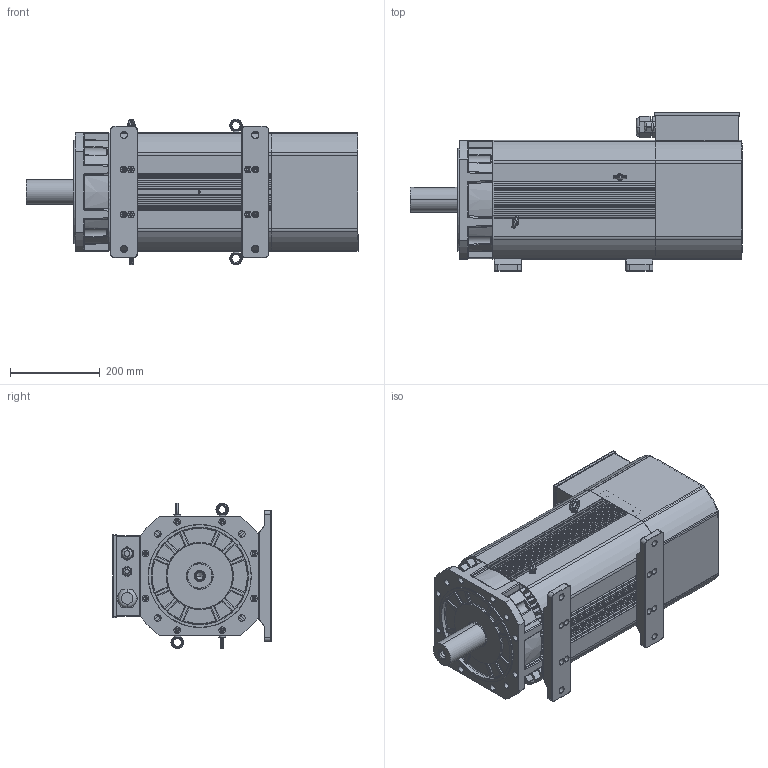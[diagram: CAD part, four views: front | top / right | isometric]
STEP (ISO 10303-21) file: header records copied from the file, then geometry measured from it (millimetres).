
FILE_DESCRIPTION (( 'STEP AP203' ), '1' );
FILE_NAME ('265E-B35-55J俋倛芞.STEP', '2022-04-15T09:05:42', ( '' ), ( '' ), 'SwSTEP 2.0', 'SolidWorks 2016', '' );
FILE_SCHEMA (( 'CONFIG_CONTROL_DESIGN' ));
Length unit declared in the file: millimetre
Products named in the file (22): M16X1.5蹟杶; M36蹟杶; 接线盒后盖风罩组件; 齬脣鼠芛; 齬脣晤鎢ん啣; 265瑞欶; M8X12裂遠; ヶ裔55J郪璃; 瑞儂諉盄翐; 諉盄碟郪璃; 265菁褐; 265-55J-粣18.5kw; 265E儂褲26KW; M20X1.5蹟杶; cross recessed cheese head screws gb_GB_CROSS_SCREWS_TYPE2 M3X4-4  H type-N; 265諉盄碟裔; 265后端盖铸铁_光电编码器; 265E-B35-55J俋倛芞; 265諉盄碟; 265芧埽ヶ傷裔
Assembly tree (30 placements, depth 5):
  265E-B35-55J俋倛芞
    265E儂褲26KW
    ヶ裔55J郪璃
      265芧埽ヶ傷裔
      265-55J-粣18.5kw
    接线盒后盖风罩组件
      265后端盖铸铁_光电编码器
      265瑞欶
      諉盄碟郪璃
        265諉盄碟
        M36蹟杶
        M16X1.5蹟杶
        M20X1.5蹟杶
        265諉盄碟裔
        瑞儂諉盄翐
          瑞儂諉盄翐
          cross recessed cheese head screws gb_GB_CROSS_SCREWS_TYPE2 M3X4-4  H type-N  x6
        齬脣晤鎢ん啣
          齬脣晤鎢ん啣
          齬脣鼠芛
    M8X12裂遠  x4
    265菁褐  x2
Bounding box: 740 x 352.5 x 324 mm (x, y, z)
Volume: 9923786.6 mm3; surface area: 2788378.6 mm2
Topology: 25 solids, 25 shells, 2598 faces, 6845 edges, 4249 vertices
Faces by surface type: cylinder 1097, plane 884, cone 227, torus 184, bspline 126, sphere 80
Entity records: 77052 total; most frequent: CARTESIAN_POINT 17961, DIRECTION 12374, ORIENTED_EDGE 11630, EDGE_CURVE 5815, AXIS2_PLACEMENT_3D 4735, VERTEX_POINT 3672, VECTOR 2904, LINE 2904
